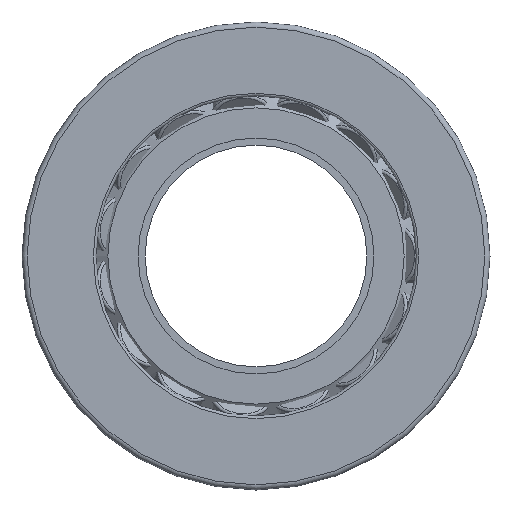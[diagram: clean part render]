
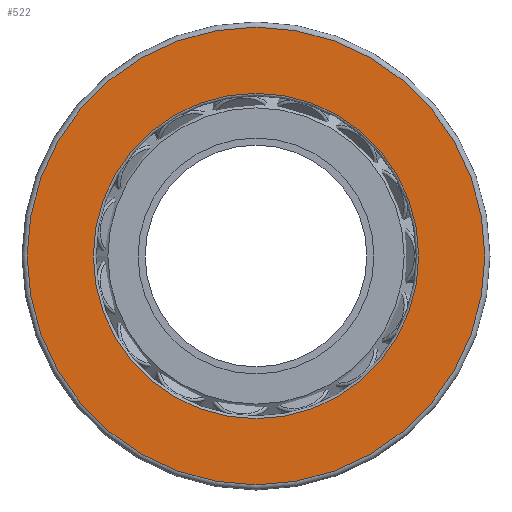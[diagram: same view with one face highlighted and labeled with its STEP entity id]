
A CAD part, front view. The second image highlights one B-rep face of the part: STEP entity #522.
In plain terms, the highlighted planar face has unit normal (0, -1, 0).
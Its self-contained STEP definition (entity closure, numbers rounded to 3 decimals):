
#111=PLANE('',#572);
#135=FACE_BOUND('',#210,.T.);
#167=FACE_OUTER_BOUND('',#209,.T.);
#209=EDGE_LOOP('',(#419));
#210=EDGE_LOOP('',(#420));
#276=CIRCLE('',#570,66.05);
#278=CIRCLE('',#573,92.9);
#321=VERTEX_POINT('',#881);
#323=VERTEX_POINT('',#886);
#366=EDGE_CURVE('',#321,#321,#276,.T.);
#368=EDGE_CURVE('',#323,#323,#278,.T.);
#419=ORIENTED_EDGE('',*,*,#368,.F.);
#420=ORIENTED_EDGE('',*,*,#366,.F.);
#522=ADVANCED_FACE('',(#167,#135),#111,.T.);
#570=AXIS2_PLACEMENT_3D('',#882,#682,#683);
#572=AXIS2_PLACEMENT_3D('',#885,#686,#687);
#573=AXIS2_PLACEMENT_3D('',#887,#688,#689);
#682=DIRECTION('center_axis',(0.,-1.,0.));
#683=DIRECTION('ref_axis',(-1.,0.,0.));
#686=DIRECTION('center_axis',(0.,-1.,0.));
#687=DIRECTION('ref_axis',(0.,0.,-1.));
#688=DIRECTION('center_axis',(0.,1.,0.));
#689=DIRECTION('ref_axis',(-1.,0.,0.));
#881=CARTESIAN_POINT('',(66.05,-30.,0.));
#882=CARTESIAN_POINT('Origin',(0.,-30.,0.));
#885=CARTESIAN_POINT('Origin',(65.,-30.,0.));
#886=CARTESIAN_POINT('',(92.9,-30.,0.));
#887=CARTESIAN_POINT('Origin',(0.,-30.,0.));
